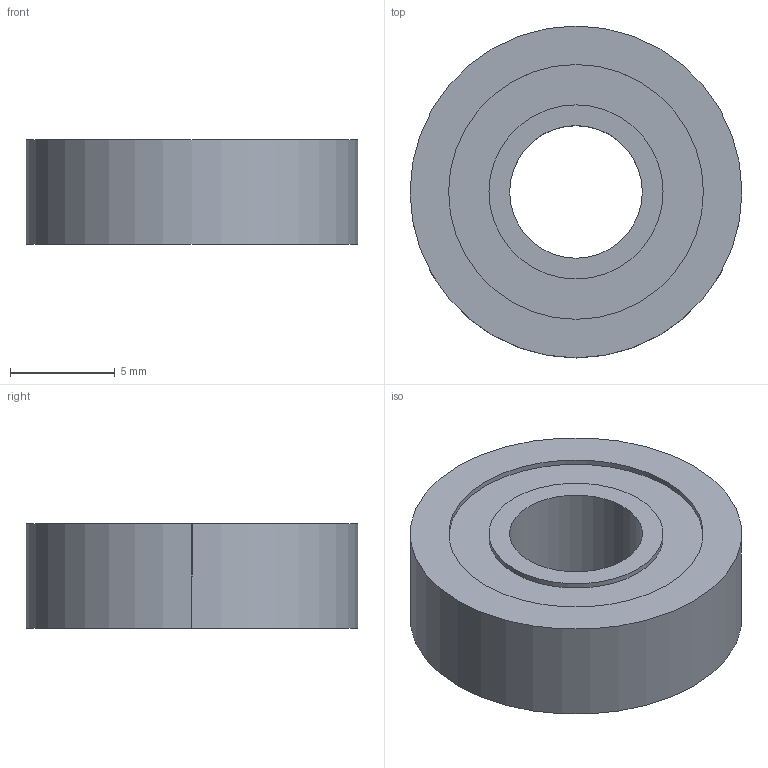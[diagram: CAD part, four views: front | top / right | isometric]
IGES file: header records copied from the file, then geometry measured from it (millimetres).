
Global section: file name: C:\Documents and Settings\Administrator\Desktop\bearing0250.igs; native system: AutoDesk Inventor R2.0 ; preprocessor: AutoDesk Inventor Iges Exporter R2.0; author: No Author specified; organization: No Organization specified; date: 20011206.205958; units: inch
Bounding box: 15.88 x 15.88 x 4.98 mm (x, y, z)
Surface area: 712.9 mm2 (no closed solid volume)
Topology: 0 solids, 0 shells, 18 faces, 72 edges, 72 vertices
Faces by surface type: revolution 12, bspline 6
